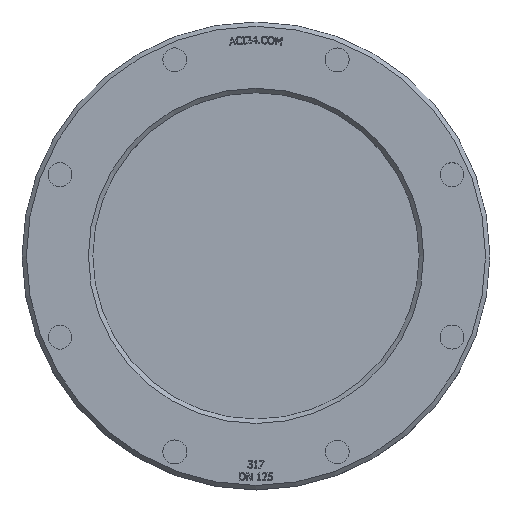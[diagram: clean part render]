
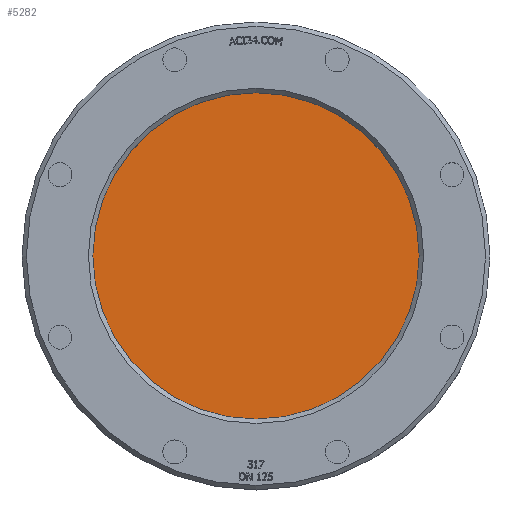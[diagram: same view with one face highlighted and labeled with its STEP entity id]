
A CAD part, top view. The second image highlights one B-rep face of the part: STEP entity #5282.
In plain terms, the highlighted planar face has unit normal (0, 0, 1).
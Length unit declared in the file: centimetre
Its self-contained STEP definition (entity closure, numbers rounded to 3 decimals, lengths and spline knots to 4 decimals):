
#1707=FACE_OUTER_BOUND('',#1999,.T.);
#1999=EDGE_LOOP('',(#3618));
#2330=CIRCLE('',#5578,7.5);
#2355=VERTEX_POINT('',#6703);
#2864=EDGE_CURVE('',#2355,#2355,#2330,.T.);
#3618=ORIENTED_EDGE('',*,*,#2864,.F.);
#5115=PLANE('',#5577);
#5282=ADVANCED_FACE('',(#1707),#5115,.F.);
#5577=AXIS2_PLACEMENT_3D('',#6702,#5791,#5792);
#5578=AXIS2_PLACEMENT_3D('',#6704,#5793,#5794);
#5791=DIRECTION('center_axis',(0.,0.,-1.));
#5792=DIRECTION('ref_axis',(-1.,0.,0.));
#5793=DIRECTION('center_axis',(0.,0.,-1.));
#5794=DIRECTION('ref_axis',(-1.,0.,0.));
#6702=CARTESIAN_POINT('Origin',(0.,0.,
2.65));
#6703=CARTESIAN_POINT('',(7.5,0.,2.65));
#6704=CARTESIAN_POINT('Origin',(0.,0.,
2.65));
